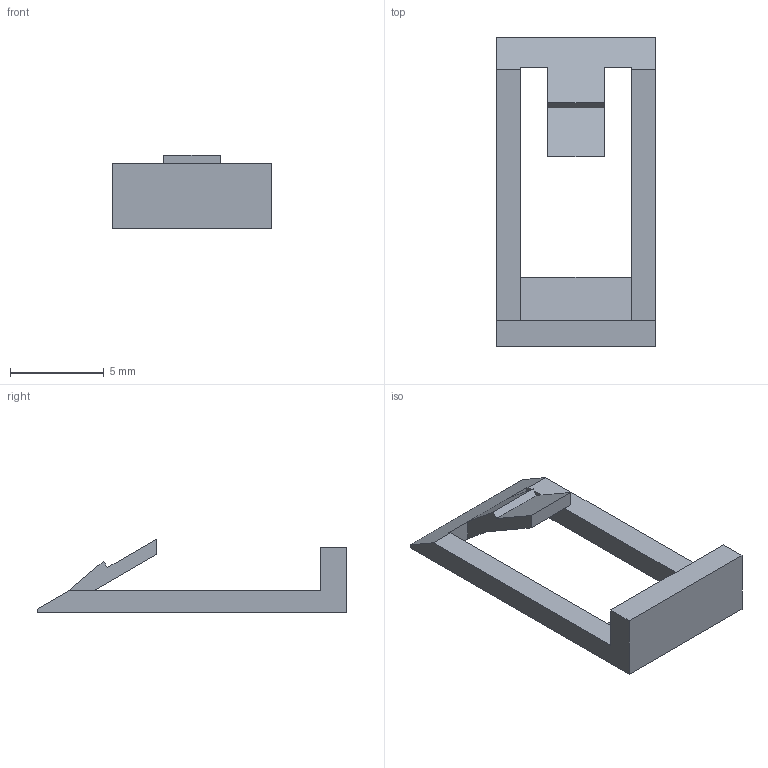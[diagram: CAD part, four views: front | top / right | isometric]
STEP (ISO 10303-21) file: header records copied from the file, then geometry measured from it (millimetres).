
FILE_DESCRIPTION(('STEP AP214'),'1');
FILE_NAME('NS25.stp','2016-10-19T00:51:16',(' '),(' '),'Spatial InterOp 3D',' ',' ');
FILE_SCHEMA(('automotive_design'));
Length unit declared in the file: millimetre
Products named in the file (1): NS25
Bounding box: 8.5 x 16.5 x 3.92 mm (x, y, z)
Volume: 115.6 mm3; surface area: 329.4 mm2
Topology: 1 solids, 1 shells, 24 faces, 65 edges, 42 vertices
Faces by surface type: plane 24
Entity records: 949 total; most frequent: CARTESIAN_POINT 132, ORIENTED_EDGE 130, DIRECTION 115, EDGE_CURVE 65, LINE 65, VECTOR 65, VERTEX_POINT 42, AXIS2_PLACEMENT_3D 25
